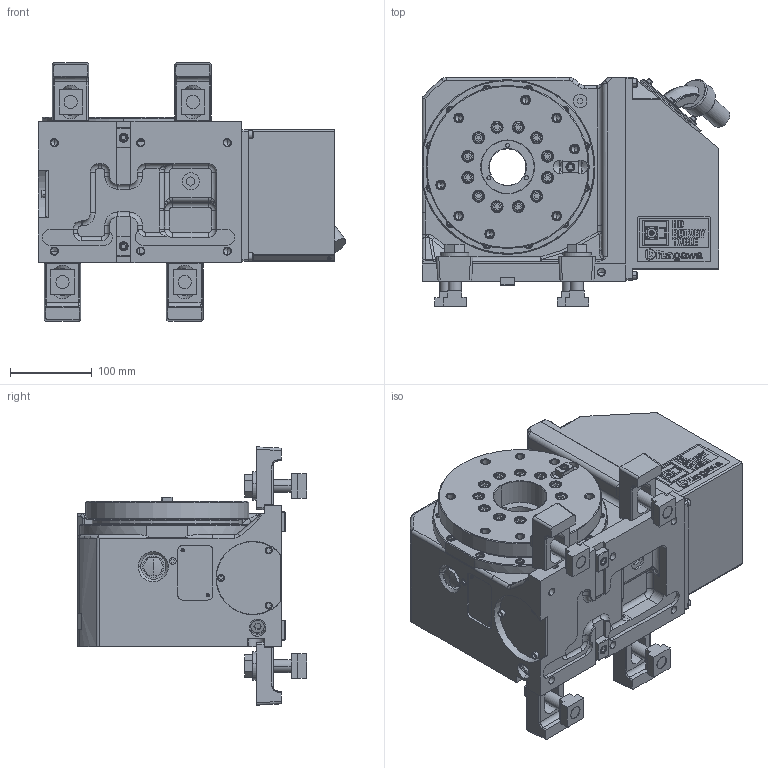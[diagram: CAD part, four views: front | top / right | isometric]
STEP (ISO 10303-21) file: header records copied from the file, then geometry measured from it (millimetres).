
FILE_DESCRIPTION (( 'STEP AP214' ), '1' );
FILE_NAME ('GT200RAV.STEP', '2019-12-10T04:34:54', ( '' ), ( '' ), 'SwSTEP 2.0', 'SolidWorks 2017', '' );
FILE_SCHEMA (( 'AUTOMOTIVE_DESIGN' ));
Length unit declared in the file: millimetre
Products named in the file (10): CLAMPING PARTS（61E464786）; GT200RAV00儂儞僞僀; 働乕僽儖N29ZSZ2562; キタガワシール; モータケース(61E271511)GT200RAV00; ガイドブロック(61M4197783); GT200RA01僋儈僞僥(61E500400); テーブル (61E8006661）GT200RA00; 儂儞僞僀ASSY 乮61E1127911乯 GT200RA01  ; GT200RAV
Assembly tree (13 placements, depth 4):
  GT200RAV
    GT200RAV00儂儞僞僀
      GT200RA01僋儈僞僥(61E500400)
        儂儞僞僀ASSY 乮61E1127911乯 GT200RA01  
        テーブル (61E8006661）GT200RA00
      ガイドブロック(61M4197783)  x2
      モータケース(61E271511)GT200RAV00
      キタガワシール
      働乕僽儖N29ZSZ2562
    CLAMPING PARTS（61E464786）  x4
Bounding box: 377.71 x 281 x 317 mm (x, y, z)
Volume: 13416896.4 mm3; surface area: 761791.2 mm2
Topology: 11 solids, 12 shells, 3265 faces, 8466 edges, 5478 vertices
Faces by surface type: plane 2292, cylinder 636, cone 244, torus 47, bspline 37, sphere 9
Entity records: 107429 total; most frequent: CARTESIAN_POINT 18048, ORIENTED_EDGE 15870, DIRECTION 15363, EDGE_CURVE 7935, VECTOR 6377, LINE 6377, VERTEX_POINT 5178, AXIS2_PLACEMENT_3D 4493
